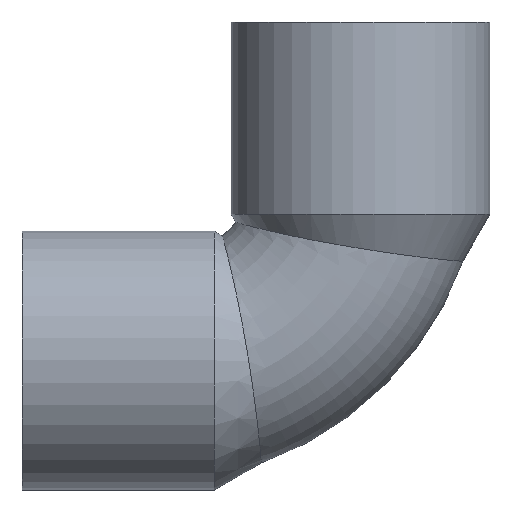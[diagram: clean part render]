
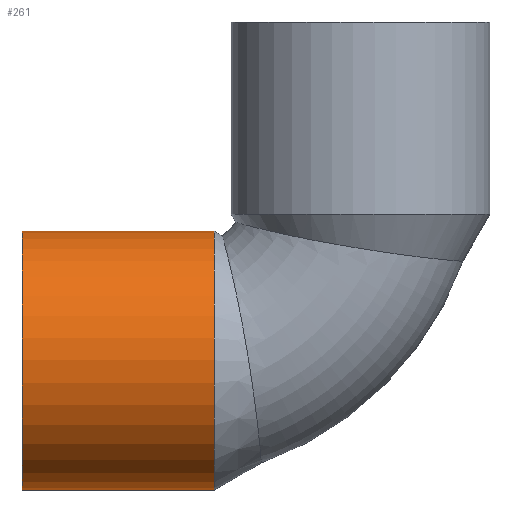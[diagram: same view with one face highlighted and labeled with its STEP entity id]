
A CAD part, top view. The second image highlights one B-rep face of the part: STEP entity #261.
In plain terms, the highlighted cylindrical face has radius 4.7 mm (diameter 9.4 mm), a partial arc.
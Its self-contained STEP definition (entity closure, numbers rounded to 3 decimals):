
#220=CARTESIAN_POINT('',(-1.206,-7.6,0.0));
#221=DIRECTION('',(-1.0,0.,0.0));
#222=DIRECTION('',(0.0,-1.0,0.0));
#223=AXIS2_PLACEMENT_3D('',#220,#221,#222);
#224=CYLINDRICAL_SURFACE('',#223,4.7);
#225=CARTESIAN_POINT('',(2.288,-12.3,0.0));
#226=VERTEX_POINT('',#225);
#227=CARTESIAN_POINT('',(-4.7,-12.3,0.0));
#228=VERTEX_POINT('',#227);
#229=CARTESIAN_POINT('',(2.288,-12.3,0.0));
#230=DIRECTION('',(-1.0,0.0,0.0));
#231=VECTOR('',#230,6.988);
#232=LINE('',#229,#231);
#233=EDGE_CURVE('',#226,#228,#232,.T.);
#234=ORIENTED_EDGE('',*,*,#233,.F.);
#235=CARTESIAN_POINT('',(2.288,-2.9,0.));
#236=VERTEX_POINT('',#235);
#237=CARTESIAN_POINT('',(2.288,-7.6,0.0));
#238=DIRECTION('',(-1.0,0.0,0.0));
#239=DIRECTION('',(0.0,-1.0,0.0));
#240=AXIS2_PLACEMENT_3D('',#237,#238,#239);
#241=CIRCLE('',#240,4.7);
#242=EDGE_CURVE('',#226,#236,#241,.T.);
#243=ORIENTED_EDGE('',*,*,#242,.T.);
#244=CARTESIAN_POINT('',(-4.7,-2.9,0.));
#245=VERTEX_POINT('',#244);
#246=CARTESIAN_POINT('',(-4.7,-2.9,0.));
#247=DIRECTION('',(1.0,0.0,0.0));
#248=VECTOR('',#247,6.988);
#249=LINE('',#246,#248);
#250=EDGE_CURVE('',#245,#236,#249,.T.);
#251=ORIENTED_EDGE('',*,*,#250,.F.);
#252=CARTESIAN_POINT('',(-4.7,-7.6,0.0));
#253=DIRECTION('',(-1.0,0.0,0.0));
#254=DIRECTION('',(0.0,-1.0,0.0));
#255=AXIS2_PLACEMENT_3D('',#252,#253,#254);
#256=CIRCLE('',#255,4.7);
#257=EDGE_CURVE('',#228,#245,#256,.T.);
#258=ORIENTED_EDGE('',*,*,#257,.F.);
#259=EDGE_LOOP('',(#234,#243,#251,#258));
#260=FACE_OUTER_BOUND('',#259,.T.);
#261=ADVANCED_FACE('',(#260),#224,.T.);
